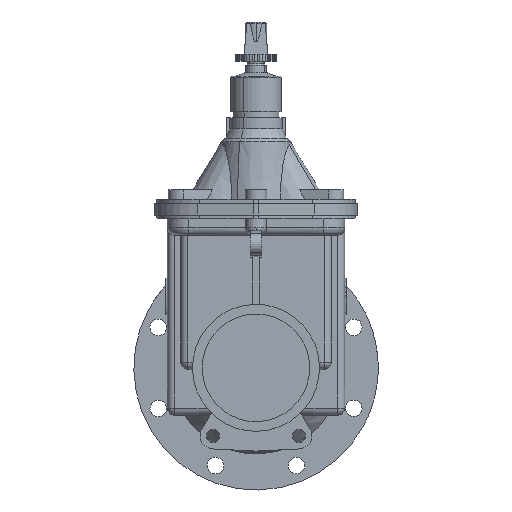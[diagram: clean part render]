
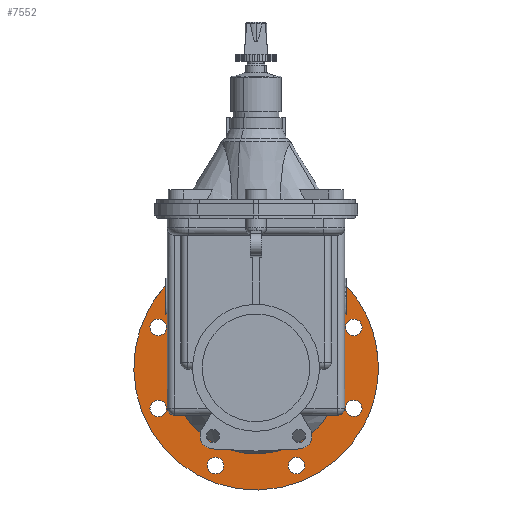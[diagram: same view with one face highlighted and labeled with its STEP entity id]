
A CAD part, left-side view. The second image highlights one B-rep face of the part: STEP entity #7552.
In plain terms, the highlighted planar face has unit normal (-1, 0, 0).
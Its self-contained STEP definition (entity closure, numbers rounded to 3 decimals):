
#6626=AXIS2_PLACEMENT_3D('Circle Axis2P3D',#6624,#6625,$) ;
#7226=AXIS2_PLACEMENT_3D('Circle Axis2P3D',#7224,#7225,$) ;
#7366=AXIS2_PLACEMENT_3D('Circle Axis2P3D',#7364,#7365,$) ;
#7380=AXIS2_PLACEMENT_3D('Plane Axis2P3D',#7377,#7378,#7379) ;
#7384=AXIS2_PLACEMENT_3D('Circle Axis2P3D',#7382,#7383,$) ;
#7393=AXIS2_PLACEMENT_3D('Circle Axis2P3D',#7391,#7392,$) ;
#7402=AXIS2_PLACEMENT_3D('Circle Axis2P3D',#7400,#7401,$) ;
#7411=AXIS2_PLACEMENT_3D('Circle Axis2P3D',#7409,#7410,$) ;
#7428=AXIS2_PLACEMENT_3D('Circle Axis2P3D',#7426,#7427,$) ;
#7437=AXIS2_PLACEMENT_3D('Circle Axis2P3D',#7435,#7436,$) ;
#7446=AXIS2_PLACEMENT_3D('Circle Axis2P3D',#7444,#7445,$) ;
#7455=AXIS2_PLACEMENT_3D('Circle Axis2P3D',#7453,#7454,$) ;
#7464=AXIS2_PLACEMENT_3D('Circle Axis2P3D',#7462,#7463,$) ;
#7473=AXIS2_PLACEMENT_3D('Circle Axis2P3D',#7471,#7472,$) ;
#7482=AXIS2_PLACEMENT_3D('Circle Axis2P3D',#7480,#7481,$) ;
#7491=AXIS2_PLACEMENT_3D('Circle Axis2P3D',#7489,#7490,$) ;
#7500=AXIS2_PLACEMENT_3D('Circle Axis2P3D',#7498,#7499,$) ;
#7509=AXIS2_PLACEMENT_3D('Circle Axis2P3D',#7507,#7508,$) ;
#7518=AXIS2_PLACEMENT_3D('Circle Axis2P3D',#7516,#7517,$) ;
#7527=AXIS2_PLACEMENT_3D('Circle Axis2P3D',#7525,#7526,$) ;
#7536=AXIS2_PLACEMENT_3D('Circle Axis2P3D',#7534,#7535,$) ;
#7545=AXIS2_PLACEMENT_3D('Circle Axis2P3D',#7543,#7544,$) ;
#350=CARTESIAN_POINT('Vertex',(123.75,5.,170.)) ;
#353=CARTESIAN_POINT('Line Origine',(123.75,5.,144.931)) ;
#357=CARTESIAN_POINT('Vertex',(123.75,5.,119.862)) ;
#423=CARTESIAN_POINT('Vertex',(123.75,-5.,170.)) ;
#426=CARTESIAN_POINT('Line Origine',(123.75,0.,170.)) ;
#469=CARTESIAN_POINT('Vertex',(123.75,-5.,119.862)) ;
#472=CARTESIAN_POINT('Line Origine',(123.75,-5.,144.931)) ;
#6621=CARTESIAN_POINT('Vertex',(123.75,105.281,57.515)) ;
#6624=CARTESIAN_POINT('Axis2P3D Location',(123.75,0.,0.)) ;
#6628=CARTESIAN_POINT('Vertex',(123.75,-105.281,-57.515)) ;
#7224=CARTESIAN_POINT('Axis2P3D Location',(123.75,0.,0.)) ;
#7364=CARTESIAN_POINT('Axis2P3D Location',(123.75,0.,0.)) ;
#7377=CARTESIAN_POINT('Axis2P3D Location',(123.75,100.,0.)) ;
#7382=CARTESIAN_POINT('Axis2P3D Location',(123.75,0.,0.)) ;
#7386=CARTESIAN_POINT('Vertex',(123.75,149.452,81.646)) ;
#7388=CARTESIAN_POINT('Vertex',(123.75,-149.452,-81.646)) ;
#7391=CARTESIAN_POINT('Axis2P3D Location',(123.75,0.,0.)) ;
#7400=CARTESIAN_POINT('Axis2P3D Location',(123.75,56.446,136.272)) ;
#7404=CARTESIAN_POINT('Vertex',(123.75,45.096,134.417)) ;
#7406=CARTESIAN_POINT('Vertex',(123.75,67.795,138.127)) ;
#7409=CARTESIAN_POINT('Axis2P3D Location',(123.75,56.446,136.272)) ;
#7426=CARTESIAN_POINT('Axis2P3D Location',(123.75,-56.446,136.272)) ;
#7430=CARTESIAN_POINT('Vertex',(123.75,-49.732,145.609)) ;
#7432=CARTESIAN_POINT('Vertex',(123.75,-63.16,126.935)) ;
#7435=CARTESIAN_POINT('Axis2P3D Location',(123.75,-56.446,136.272)) ;
#7444=CARTESIAN_POINT('Axis2P3D Location',(123.75,-136.272,56.446)) ;
#7448=CARTESIAN_POINT('Vertex',(123.75,-138.127,67.795)) ;
#7450=CARTESIAN_POINT('Vertex',(123.75,-134.417,45.096)) ;
#7453=CARTESIAN_POINT('Axis2P3D Location',(123.75,-136.272,56.446)) ;
#7462=CARTESIAN_POINT('Axis2P3D Location',(123.75,-136.272,-56.446)) ;
#7466=CARTESIAN_POINT('Vertex',(123.75,-145.609,-49.732)) ;
#7468=CARTESIAN_POINT('Vertex',(123.75,-126.935,-63.16)) ;
#7471=CARTESIAN_POINT('Axis2P3D Location',(123.75,-136.272,-56.446)) ;
#7480=CARTESIAN_POINT('Axis2P3D Location',(123.75,-56.446,-136.272)) ;
#7484=CARTESIAN_POINT('Vertex',(123.75,-67.795,-138.127)) ;
#7486=CARTESIAN_POINT('Vertex',(123.75,-45.096,-134.417)) ;
#7489=CARTESIAN_POINT('Axis2P3D Location',(123.75,-56.446,-136.272)) ;
#7498=CARTESIAN_POINT('Axis2P3D Location',(123.75,56.446,-136.272)) ;
#7502=CARTESIAN_POINT('Vertex',(123.75,49.732,-145.609)) ;
#7504=CARTESIAN_POINT('Vertex',(123.75,63.16,-126.935)) ;
#7507=CARTESIAN_POINT('Axis2P3D Location',(123.75,56.446,-136.272)) ;
#7516=CARTESIAN_POINT('Axis2P3D Location',(123.75,136.272,-56.446)) ;
#7520=CARTESIAN_POINT('Vertex',(123.75,138.127,-67.795)) ;
#7522=CARTESIAN_POINT('Vertex',(123.75,134.417,-45.096)) ;
#7525=CARTESIAN_POINT('Axis2P3D Location',(123.75,136.272,-56.446)) ;
#7534=CARTESIAN_POINT('Axis2P3D Location',(123.75,136.272,56.446)) ;
#7538=CARTESIAN_POINT('Vertex',(123.75,145.609,49.732)) ;
#7540=CARTESIAN_POINT('Vertex',(123.75,126.935,63.16)) ;
#7543=CARTESIAN_POINT('Axis2P3D Location',(123.75,136.272,56.446)) ;
#354=DIRECTION('Vector Direction',(0.,0.,-1.)) ;
#427=DIRECTION('Vector Direction',(0.,-1.,0.)) ;
#473=DIRECTION('Vector Direction',(0.,0.,-1.)) ;
#6625=DIRECTION('Axis2P3D Direction',(1.,0.,0.)) ;
#7225=DIRECTION('Axis2P3D Direction',(1.,0.,0.)) ;
#7365=DIRECTION('Axis2P3D Direction',(1.,0.,0.)) ;
#7378=DIRECTION('Axis2P3D Direction',(1.,0.,0.)) ;
#7379=DIRECTION('Axis2P3D XDirection',(0.,1.,0.)) ;
#7383=DIRECTION('Axis2P3D Direction',(1.,0.,0.)) ;
#7392=DIRECTION('Axis2P3D Direction',(1.,0.,0.)) ;
#7401=DIRECTION('Axis2P3D Direction',(1.,0.,0.)) ;
#7410=DIRECTION('Axis2P3D Direction',(1.,0.,0.)) ;
#7427=DIRECTION('Axis2P3D Direction',(1.,0.,0.)) ;
#7436=DIRECTION('Axis2P3D Direction',(1.,0.,0.)) ;
#7445=DIRECTION('Axis2P3D Direction',(1.,0.,0.)) ;
#7454=DIRECTION('Axis2P3D Direction',(1.,0.,0.)) ;
#7463=DIRECTION('Axis2P3D Direction',(1.,0.,0.)) ;
#7472=DIRECTION('Axis2P3D Direction',(1.,0.,0.)) ;
#7481=DIRECTION('Axis2P3D Direction',(1.,0.,0.)) ;
#7490=DIRECTION('Axis2P3D Direction',(1.,0.,0.)) ;
#7499=DIRECTION('Axis2P3D Direction',(1.,0.,0.)) ;
#7508=DIRECTION('Axis2P3D Direction',(1.,0.,0.)) ;
#7517=DIRECTION('Axis2P3D Direction',(1.,0.,0.)) ;
#7526=DIRECTION('Axis2P3D Direction',(1.,0.,0.)) ;
#7535=DIRECTION('Axis2P3D Direction',(1.,0.,0.)) ;
#7544=DIRECTION('Axis2P3D Direction',(1.,0.,0.)) ;
#355=VECTOR('Line Direction',#354,1.) ;
#428=VECTOR('Line Direction',#427,1.) ;
#474=VECTOR('Line Direction',#473,1.) ;
#7397=ORIENTED_EDGE('',*,*,#7390,.F.) ;
#7398=ORIENTED_EDGE('',*,*,#7395,.F.) ;
#7415=ORIENTED_EDGE('',*,*,#7408,.T.) ;
#7416=ORIENTED_EDGE('',*,*,#7413,.T.) ;
#7419=ORIENTED_EDGE('',*,*,#359,.F.) ;
#7420=ORIENTED_EDGE('',*,*,#430,.T.) ;
#7421=ORIENTED_EDGE('',*,*,#476,.T.) ;
#7422=ORIENTED_EDGE('',*,*,#7228,.T.) ;
#7423=ORIENTED_EDGE('',*,*,#6630,.T.) ;
#7424=ORIENTED_EDGE('',*,*,#7368,.T.) ;
#7441=ORIENTED_EDGE('',*,*,#7434,.T.) ;
#7442=ORIENTED_EDGE('',*,*,#7439,.T.) ;
#7459=ORIENTED_EDGE('',*,*,#7452,.T.) ;
#7460=ORIENTED_EDGE('',*,*,#7457,.T.) ;
#7477=ORIENTED_EDGE('',*,*,#7470,.T.) ;
#7478=ORIENTED_EDGE('',*,*,#7475,.T.) ;
#7495=ORIENTED_EDGE('',*,*,#7488,.T.) ;
#7496=ORIENTED_EDGE('',*,*,#7493,.T.) ;
#7513=ORIENTED_EDGE('',*,*,#7506,.T.) ;
#7514=ORIENTED_EDGE('',*,*,#7511,.T.) ;
#7531=ORIENTED_EDGE('',*,*,#7524,.T.) ;
#7532=ORIENTED_EDGE('',*,*,#7529,.T.) ;
#7549=ORIENTED_EDGE('',*,*,#7542,.T.) ;
#7550=ORIENTED_EDGE('',*,*,#7547,.T.) ;
#7417=FACE_BOUND('',#7414,.T.) ;
#7425=FACE_BOUND('',#7418,.T.) ;
#7443=FACE_BOUND('',#7440,.T.) ;
#7461=FACE_BOUND('',#7458,.T.) ;
#7479=FACE_BOUND('',#7476,.T.) ;
#7497=FACE_BOUND('',#7494,.T.) ;
#7515=FACE_BOUND('',#7512,.T.) ;
#7533=FACE_BOUND('',#7530,.T.) ;
#7551=FACE_BOUND('',#7548,.T.) ;
#7552=ADVANCED_FACE('Schieber-DN200-PN10',(#7399,#7417,#7425,#7443,#7461,#7479,#7497,#7515,#7533,#7551),#7381,.F.) ;
#6627=CIRCLE('generated circle',#6626,119.967) ;
#7227=CIRCLE('generated circle',#7226,119.967) ;
#7367=CIRCLE('generated circle',#7366,119.967) ;
#7385=CIRCLE('generated circle',#7384,170.3) ;
#7394=CIRCLE('generated circle',#7393,170.3) ;
#7403=CIRCLE('generated circle',#7402,11.5) ;
#7412=CIRCLE('generated circle',#7411,11.5) ;
#7429=CIRCLE('generated circle',#7428,11.5) ;
#7438=CIRCLE('generated circle',#7437,11.5) ;
#7447=CIRCLE('generated circle',#7446,11.5) ;
#7456=CIRCLE('generated circle',#7455,11.5) ;
#7465=CIRCLE('generated circle',#7464,11.5) ;
#7474=CIRCLE('generated circle',#7473,11.5) ;
#7483=CIRCLE('generated circle',#7482,11.5) ;
#7492=CIRCLE('generated circle',#7491,11.5) ;
#7501=CIRCLE('generated circle',#7500,11.5) ;
#7510=CIRCLE('generated circle',#7509,11.5) ;
#7519=CIRCLE('generated circle',#7518,11.5) ;
#7528=CIRCLE('generated circle',#7527,11.5) ;
#7537=CIRCLE('generated circle',#7536,11.5) ;
#7546=CIRCLE('generated circle',#7545,11.5) ;
#359=EDGE_CURVE('',#351,#358,#356,.T.) ;
#430=EDGE_CURVE('',#351,#424,#429,.T.) ;
#476=EDGE_CURVE('',#424,#470,#475,.T.) ;
#6630=EDGE_CURVE('',#6629,#6622,#6627,.T.) ;
#7228=EDGE_CURVE('',#470,#6629,#7227,.T.) ;
#7368=EDGE_CURVE('',#6622,#358,#7367,.T.) ;
#7390=EDGE_CURVE('',#7387,#7389,#7385,.T.) ;
#7395=EDGE_CURVE('',#7389,#7387,#7394,.T.) ;
#7408=EDGE_CURVE('',#7405,#7407,#7403,.T.) ;
#7413=EDGE_CURVE('',#7407,#7405,#7412,.T.) ;
#7434=EDGE_CURVE('',#7431,#7433,#7429,.T.) ;
#7439=EDGE_CURVE('',#7433,#7431,#7438,.T.) ;
#7452=EDGE_CURVE('',#7449,#7451,#7447,.T.) ;
#7457=EDGE_CURVE('',#7451,#7449,#7456,.T.) ;
#7470=EDGE_CURVE('',#7467,#7469,#7465,.T.) ;
#7475=EDGE_CURVE('',#7469,#7467,#7474,.T.) ;
#7488=EDGE_CURVE('',#7485,#7487,#7483,.T.) ;
#7493=EDGE_CURVE('',#7487,#7485,#7492,.T.) ;
#7506=EDGE_CURVE('',#7503,#7505,#7501,.T.) ;
#7511=EDGE_CURVE('',#7505,#7503,#7510,.T.) ;
#7524=EDGE_CURVE('',#7521,#7523,#7519,.T.) ;
#7529=EDGE_CURVE('',#7523,#7521,#7528,.T.) ;
#7542=EDGE_CURVE('',#7539,#7541,#7537,.T.) ;
#7547=EDGE_CURVE('',#7541,#7539,#7546,.T.) ;
#7396=EDGE_LOOP('',(#7397,#7398)) ;
#7414=EDGE_LOOP('',(#7415,#7416)) ;
#7418=EDGE_LOOP('',(#7419,#7420,#7421,#7422,#7423,#7424)) ;
#7440=EDGE_LOOP('',(#7441,#7442)) ;
#7458=EDGE_LOOP('',(#7459,#7460)) ;
#7476=EDGE_LOOP('',(#7477,#7478)) ;
#7494=EDGE_LOOP('',(#7495,#7496)) ;
#7512=EDGE_LOOP('',(#7513,#7514)) ;
#7530=EDGE_LOOP('',(#7531,#7532)) ;
#7548=EDGE_LOOP('',(#7549,#7550)) ;
#7399=FACE_OUTER_BOUND('',#7396,.T.) ;
#356=LINE('Line',#353,#355) ;
#429=LINE('Line',#426,#428) ;
#475=LINE('Line',#472,#474) ;
#7381=PLANE('',#7380) ;
#351=VERTEX_POINT('',#350) ;
#358=VERTEX_POINT('',#357) ;
#424=VERTEX_POINT('',#423) ;
#470=VERTEX_POINT('',#469) ;
#6622=VERTEX_POINT('',#6621) ;
#6629=VERTEX_POINT('',#6628) ;
#7387=VERTEX_POINT('',#7386) ;
#7389=VERTEX_POINT('',#7388) ;
#7405=VERTEX_POINT('',#7404) ;
#7407=VERTEX_POINT('',#7406) ;
#7431=VERTEX_POINT('',#7430) ;
#7433=VERTEX_POINT('',#7432) ;
#7449=VERTEX_POINT('',#7448) ;
#7451=VERTEX_POINT('',#7450) ;
#7467=VERTEX_POINT('',#7466) ;
#7469=VERTEX_POINT('',#7468) ;
#7485=VERTEX_POINT('',#7484) ;
#7487=VERTEX_POINT('',#7486) ;
#7503=VERTEX_POINT('',#7502) ;
#7505=VERTEX_POINT('',#7504) ;
#7521=VERTEX_POINT('',#7520) ;
#7523=VERTEX_POINT('',#7522) ;
#7539=VERTEX_POINT('',#7538) ;
#7541=VERTEX_POINT('',#7540) ;
